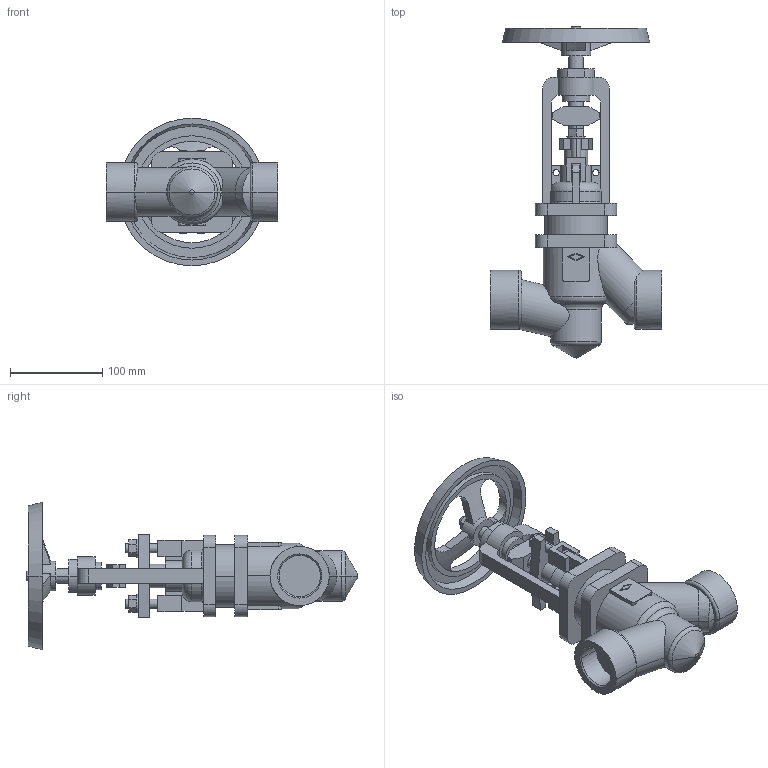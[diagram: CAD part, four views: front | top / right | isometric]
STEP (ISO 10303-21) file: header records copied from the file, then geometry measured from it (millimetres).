
FILE_DESCRIPTION(('OneSpaceDesigner STEP Export'),'2;1');
FILE_NAME('c000004263.stp','2010-05-04T11:08:52',(''),(''),'OneSpace Designer STEP processor for AP214 (Solid Model)','OneSpace Modeling 15.50B 03-Nov-2007 (C) CoCreate Software GmbH','');
FILE_SCHEMA(('AUTOMOTIVE_DESIGN { 1 0 10303 214 1 1 1 1 }'));
Length unit declared in the file: millimetre
Products named in the file (1): 1
Bounding box: 186 x 360.13 x 160 mm (x, y, z)
Volume: 1324710.9 mm3; surface area: 188952 mm2
Topology: 1 solids, 1 shells, 292 faces, 764 edges, 496 vertices
Faces by surface type: plane 149, cylinder 95, cone 28, torus 18, sphere 2
Entity records: 11650 total; most frequent: CARTESIAN_POINT 2547, ORIENTED_EDGE 1528, DIRECTION 1260, EDGE_CURVE 764, VERTEX_POINT 496, VECTOR 430, LINE 430, AXIS2_PLACEMENT_3D 415
